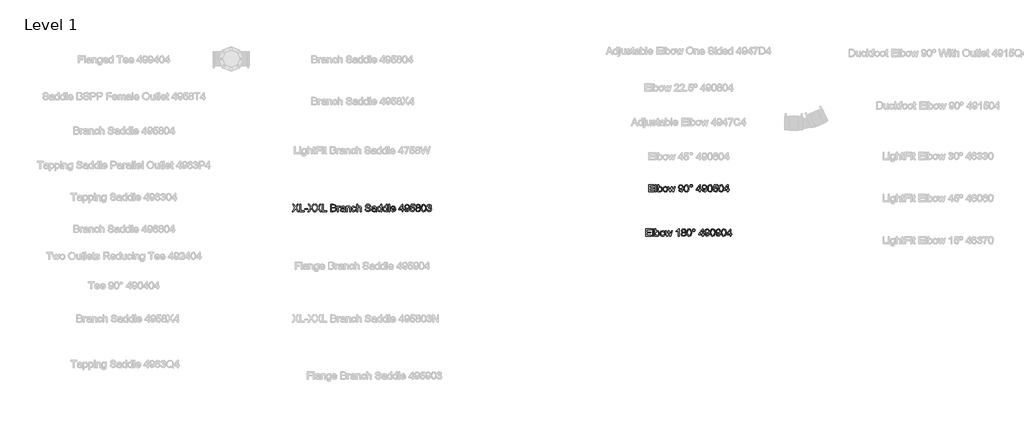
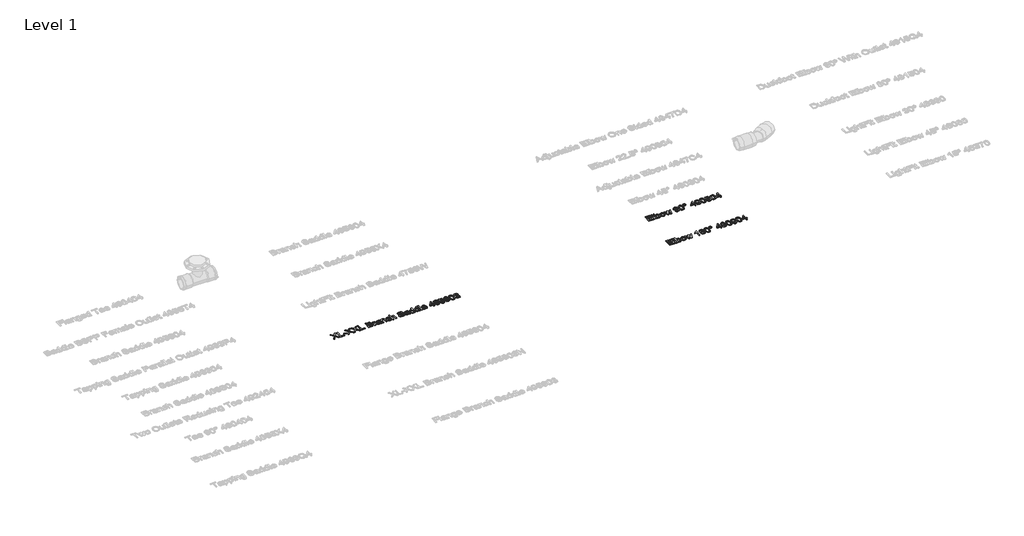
# One storey, part 11 of 38: 3 proxies.
"""IFC4 building model written with IfcOpenShell, lengths in millimetres."""

from ifc_helpers import new_model, si_unit, origin, origin_with_axes, place, context, project, spatial, polyline, outline, extrude, element, save

model = new_model("IFC4")

# Units and contexts
model_context = context("Model", 3, world=origin())
ifc_project = project(units=[si_unit("LENGTHUNIT", "METRE", prefix="MILLI")], contexts=[model_context])

# Site, building, storey
site = spatial("IfcSite", under=ifc_project)
building = spatial("IfcBuilding", under=site)
storey = spatial("IfcBuildingStorey", under=building, Name="Level 1", Elevation=0.0)

# Proxies
placement = place(None, origin())
element("IfcBuildingElementProxy", 1, Name="100 mm Arial", ObjectType="100 mm Arial", at=placement, inside=storey, context=model_context, shape_type="SweptSolid", body=[
    extrude(outline(polyline([(8429.5193072, 3727.5779735), (8452.2933456, 3759.7702812), (8433.2116149, 3786.6548966), (8442.0673841, 3786.6548966), (8452.8125764, 3771.5250889), (8456.4327687, 3765.6260505), (8460.6731533, 3771.6260505), (8471.302961, 3786.6548966), (8480.288538, 3786.6548966), (8461.2068072, 3759.6837428), (8483.9808456, 3727.5779735), (8475.1250764, 3727.5779735), (8459.9519995, 3748.9818197), (8456.7933456, 3753.4241274), (8453.3173841, 3748.5491274), (8438.5048841, 3727.5779735), (8429.5193072, 3727.5779735)])), origin_with_axes(), (0.0, 0.0, 1.0), 5.0),
    extrude(outline(polyline([(8491.365461, 3727.5779735), (8491.365461, 3786.6548966), (8498.7500764, 3786.6548966), (8498.7500764, 3734.9625889), (8528.288538, 3734.9625889), (8528.288538, 3727.5779735), (8491.365461, 3727.5779735)])), origin_with_axes(), (0.0, 0.0, 1.0), 5.0),
    extrude(outline(polyline([(8531.9808456, 3745.1164351), (8531.9808456, 3752.5010505), (8555.0577687, 3752.5010505), (8555.0577687, 3745.1164351), (8531.9808456, 3745.1164351)])), origin_with_axes(), (0.0, 0.0, 1.0), 5.0),
    extrude(outline(polyline([(8557.8269995, 3727.5779735), (8580.601038, 3759.7702812), (8561.5193072, 3786.6548966), (8570.3750764, 3786.6548966), (8581.1202687, 3771.5250889), (8584.740461, 3765.6260505), (8588.9808456, 3771.6260505), (8599.6106533, 3786.6548966), (8608.5962303, 3786.6548966), (8589.5144995, 3759.6837428), (8612.288538, 3727.5779735), (8603.4327687, 3727.5779735), (8588.2596918, 3748.9818197), (8585.101038, 3753.4241274), (8581.6250764, 3748.5491274), (8566.8125764, 3727.5779735), (8557.8269995, 3727.5779735)])), origin_with_axes(), (0.0, 0.0, 1.0), 5.0),
    extrude(outline(polyline([(8613.2116149, 3727.5779735), (8635.9856533, 3759.7702812), (8616.9039226, 3786.6548966), (8625.7596918, 3786.6548966), (8636.5048841, 3771.5250889), (8640.1250764, 3765.6260505), (8644.365461, 3771.6260505), (8654.9952687, 3786.6548966), (8663.9808456, 3786.6548966), (8644.8991149, 3759.6837428), (8667.6731533, 3727.5779735), (8658.8173841, 3727.5779735), (8643.6443072, 3748.9818197), (8640.4856533, 3753.4241274), (8637.0096918, 3748.5491274), (8622.1971918, 3727.5779735), (8613.2116149, 3727.5779735)])), origin_with_axes(), (0.0, 0.0, 1.0), 5.0),
    extrude(outline(polyline([(8675.0577687, 3727.5779735), (8675.0577687, 3786.6548966), (8682.4423841, 3786.6548966), (8682.4423841, 3734.9625889), (8711.9808456, 3734.9625889), (8711.9808456, 3727.5779735), (8675.0577687, 3727.5779735)])), origin_with_axes(), (0.0, 0.0, 1.0), 5.0),
    extrude(outline(polyline([(8743.365461, 3727.5779735), (8743.365461, 3786.6548966), (8765.9087303, 3786.6548966), (8776.9495956, 3784.9169158), (8783.4688264, 3779.5731658), (8785.8269995, 3772.0154735), (8783.8438264, 3765.1140312), (8777.851038, 3759.8856658), (8785.1274803, 3754.3760505), (8787.6731533, 3745.1885505), (8785.9351726, 3737.2486466), (8781.6298841, 3731.5948005), (8775.2044033, 3728.5948005), (8765.7356533, 3727.5779735), (8743.365461, 3727.5779735)]), holes=[polyline([(8750.7500764, 3762.6548966), (8764.2356533, 3762.6548966), (8772.1106533, 3763.289512), (8776.8486341, 3766.0226851), (8778.4423841, 3770.8327812), (8776.9568072, 3775.6500889), (8772.7019995, 3778.4986466), (8763.2116149, 3779.2702812), (8750.7500764, 3779.2702812), (8750.7500764, 3762.6548966)]), polyline([(8750.7500764, 3734.9625889), (8765.8943072, 3734.9625889), (8771.3750764, 3735.2510505), (8776.0120956, 3736.8592235), (8779.084211, 3740.1404735), (8780.288538, 3745.1164351), (8778.8750764, 3750.8568197), (8774.2957495, 3754.2823005), (8765.1731533, 3755.2702812), (8750.7500764, 3755.2702812), (8750.7500764, 3734.9625889)])]), origin_with_axes(), (0.0, 0.0, 1.0), 5.0),
    extrude(outline(polyline([(8796.9039226, 3727.5779735), (8796.9039226, 3770.9625889), (8803.365461, 3770.9625889), (8803.365461, 3764.5443197), (8807.9519995, 3770.4577812), (8812.5673841, 3771.8856658), (8819.9808456, 3769.6068197), (8817.5144995, 3762.9866274), (8812.3221918, 3764.5010505), (8808.146711, 3763.0443197), (8805.4856533, 3759.0058582), (8804.288538, 3750.3808582), (8804.288538, 3727.5779735), (8796.9039226, 3727.5779735)])), origin_with_axes(), (0.0, 0.0, 1.0), 5.0),
    extrude(outline(polyline([(8852.288538, 3733.1164351), (8845.1274803, 3728.1116274), (8837.2164226, 3726.6548966), (8826.4928649, 3730.1597043), (8822.7500764, 3739.1164351), (8824.163538, 3744.9577812), (8827.8774803, 3749.1981658), (8833.0481533, 3751.6212428), (8839.4375764, 3752.7318197), (8852.2452687, 3755.2702812), (8852.288538, 3756.914512), (8850.2548841, 3762.3664351), (8842.0914226, 3764.5010505), (8834.6202687, 3763.0803774), (8831.0577687, 3758.039512), (8823.6731533, 3758.9625889), (8826.8678649, 3766.1741274), (8833.3005572, 3770.4000889), (8843.0433456, 3771.8856658), (8851.9928649, 3770.5731658), (8857.0481533, 3767.2774928), (8859.3125764, 3762.2654735), (8859.6731533, 3755.8039351), (8859.6731533, 3746.6164351), (8860.0481533, 3733.7871082), (8861.5193072, 3727.5779735), (8854.1346918, 3727.5779735), (8852.288538, 3733.1164351)]), holes=[polyline([(8852.288538, 3747.8856658), (8840.3750764, 3745.6212428), (8834.021711, 3744.4241274), (8831.1443072, 3742.477012), (8830.1346918, 3739.6356658), (8832.334211, 3735.6404735), (8838.788538, 3734.039512), (8846.2596918, 3735.8063389), (8851.0769995, 3740.0827812), (8852.2452687, 3745.7943197), (8852.288538, 3747.8856658)])]), origin_with_axes(), (0.0, 0.0, 1.0), 5.0),
    extrude(outline(polyline([(8869.8269995, 3727.5779735), (8869.8269995, 3770.9625889), (8877.2116149, 3770.9625889), (8877.2116149, 3764.9048966), (8882.8582495, 3770.1404735), (8890.5673841, 3771.8856658), (8897.5409418, 3770.4794158), (8902.3005572, 3766.7871082), (8904.5144995, 3761.3568197), (8904.9039226, 3754.2173966), (8904.9039226, 3727.5779735), (8897.5193072, 3727.5779735), (8897.5193072, 3753.2222043), (8896.6683456, 3759.7558582), (8893.6611341, 3763.2101851), (8888.5914226, 3764.5010505), (8880.5794033, 3761.602012), (8877.2116149, 3750.5972043), (8877.2116149, 3727.5779735), (8869.8269995, 3727.5779735)])), origin_with_axes(), (0.0, 0.0, 1.0), 5.0),
    extrude(outline(polyline([(8942.7500764, 3743.2702812), (8950.1346918, 3742.3472043), (8944.2068072, 3730.8159543), (8932.4952687, 3726.6548966), (8924.6401005, 3728.1062187), (8918.4976726, 3732.4601851), (8914.5331293, 3739.5256899), (8913.2116149, 3749.1116274), (8915.4688264, 3761.3784543), (8922.3486341, 3769.2606658), (8932.3943072, 3771.8856658), (8943.6226726, 3768.2798966), (8949.2116149, 3758.039512), (8941.8269995, 3757.1164351), (8938.4015187, 3762.6476851), (8932.4519995, 3764.5010505), (8923.8919033, 3760.852012), (8920.5962303, 3749.3135505), (8923.819788, 3737.6669158), (8932.2500764, 3734.039512), (8939.209211, 3736.3039351), (8942.7500764, 3743.2702812)])), origin_with_axes(), (0.0, 0.0, 1.0), 5.0),
    extrude(outline(polyline([(8956.5962303, 3727.5779735), (8956.5962303, 3786.6548966), (8963.9808456, 3786.6548966), (8963.9808456, 3764.9337428), (8969.7392591, 3770.1476851), (8976.8318072, 3771.8856658), (8985.1250764, 3769.9890312), (8990.1587303, 3764.7462428), (8991.6731533, 3755.039512), (8991.6731533, 3727.5779735), (8984.288538, 3727.5779735), (8984.288538, 3754.2750889), (8981.9375764, 3762.0635505), (8975.2741149, 3764.5010505), (8969.2236341, 3762.8568197), (8965.1851726, 3758.4000889), (8963.9808456, 3750.6260505), (8963.9808456, 3727.5779735), (8956.5962303, 3727.5779735)])), origin_with_axes(), (0.0, 0.0, 1.0), 5.0),
    extrude(outline(polyline([(9023.0577687, 3747.8856658), (9030.4423841, 3747.8856658), (9032.8221918, 3740.4938389), (9038.6346918, 3735.820762), (9047.490461, 3734.039512), (9055.2068072, 3735.3880697), (9060.1899803, 3739.0948005), (9061.8269995, 3744.0491274), (9060.601038, 3748.6573005), (9055.5818072, 3752.0106658), (9044.8294033, 3754.8303774), (9033.2548841, 3758.4722043), (9026.9736341, 3763.9673966), (9024.9039226, 3771.3087428), (9027.4640187, 3779.6669158), (9034.9423841, 3785.5659543), (9045.8894995, 3787.5779735), (9057.5721918, 3785.4722043), (9065.3606533, 3779.2847043), (9068.288538, 3770.039512), (9060.9039226, 3770.039512), (9056.7212303, 3777.6260505), (9046.177961, 3780.1933582), (9035.6058456, 3777.6548966), (9032.288538, 3771.5250889), (9034.6394995, 3766.4048966), (9046.6971918, 3762.2798966), (9059.7644995, 3758.5731658), (9066.9111341, 3752.5875889), (9069.2116149, 3744.2366274), (9066.5649803, 3735.4024928), (9058.9495956, 3728.9553774), (9047.7789226, 3726.6548966), (9034.5890187, 3729.1356658), (9026.2452687, 3736.6068197), (9023.0577687, 3747.8856658)])), origin_with_axes(), (0.0, 0.0, 1.0), 5.0),
    extrude(outline(polyline([(9107.0577687, 3733.1164351), (9099.896711, 3728.1116274), (9091.9856533, 3726.6548966), (9081.2620956, 3730.1597043), (9077.5193072, 3739.1164351), (9078.9327687, 3744.9577812), (9082.646711, 3749.1981658), (9087.8173841, 3751.6212428), (9094.2068072, 3752.7318197), (9107.0144995, 3755.2702812), (9107.0577687, 3756.914512), (9105.0241149, 3762.3664351), (9096.8606533, 3764.5010505), (9089.3894995, 3763.0803774), (9085.8269995, 3758.039512), (9078.4423841, 3758.9625889), (9081.6370956, 3766.1741274), (9088.069788, 3770.4000889), (9097.8125764, 3771.8856658), (9106.7620956, 3770.5731658), (9111.8173841, 3767.2774928), (9114.0818072, 3762.2654735), (9114.4423841, 3755.8039351), (9114.4423841, 3746.6164351), (9114.8173841, 3733.7871082), (9116.288538, 3727.5779735), (9108.9039226, 3727.5779735), (9107.0577687, 3733.1164351)]), holes=[polyline([(9107.0577687, 3747.8856658), (9095.1443072, 3745.6212428), (9088.7909418, 3744.4241274), (9085.913538, 3742.477012), (9084.9039226, 3739.6356658), (9087.1034418, 3735.6404735), (9093.5577687, 3734.039512), (9101.0289226, 3735.8063389), (9105.8462303, 3740.0827812), (9107.0144995, 3745.7943197), (9107.0577687, 3747.8856658)])]), origin_with_axes(), (0.0, 0.0, 1.0), 5.0),
    extrude(outline(polyline([(9151.365461, 3727.5779735), (9151.365461, 3734.5443197), (9146.4796437, 3728.6272524), (9139.726038, 3726.6548966), (9130.5818072, 3729.5106658), (9124.1202687, 3737.4794158), (9121.8269995, 3749.227012), (9123.9399803, 3760.9818197), (9130.271711, 3769.0731658), (9139.6971918, 3771.8856658), (9146.5048841, 3769.8736466), (9151.365461, 3764.6452812), (9151.365461, 3786.6548966), (9158.7500764, 3786.6548966), (9158.7500764, 3727.5779735), (9151.365461, 3727.5779735)]), holes=[polyline([(9129.2116149, 3749.2558582), (9132.5433456, 3737.8255697), (9140.4039226, 3734.039512), (9148.1707495, 3737.6524928), (9151.365461, 3748.6933582), (9148.1130572, 3760.6789351), (9140.101038, 3764.5010505), (9132.3269995, 3760.8303774), (9129.2116149, 3749.2558582)])]), origin_with_axes(), (0.0, 0.0, 1.0), 5.0),
    extrude(outline(polyline([(9196.5962303, 3727.5779735), (9196.5962303, 3734.5443197), (9191.710413, 3728.6272524), (9184.9568072, 3726.6548966), (9175.8125764, 3729.5106658), (9169.351038, 3737.4794158), (9167.0577687, 3749.227012), (9169.1707495, 3760.9818197), (9175.5024803, 3769.0731658), (9184.927961, 3771.8856658), (9191.7356533, 3769.8736466), (9196.5962303, 3764.6452812), (9196.5962303, 3786.6548966), (9203.9808456, 3786.6548966), (9203.9808456, 3727.5779735), (9196.5962303, 3727.5779735)]), holes=[polyline([(9174.4423841, 3749.2558582), (9177.7741149, 3737.8255697), (9185.6346918, 3734.039512), (9193.4015187, 3737.6524928), (9196.5962303, 3748.6933582), (9193.3438264, 3760.6789351), (9185.3318072, 3764.5010505), (9177.5577687, 3760.8303774), (9174.4423841, 3749.2558582)])]), origin_with_axes(), (0.0, 0.0, 1.0), 5.0),
    extrude(outline(polyline([(9215.0577687, 3727.5779735), (9215.0577687, 3786.6548966), (9222.4423841, 3786.6548966), (9222.4423841, 3727.5779735), (9215.0577687, 3727.5779735)])), origin_with_axes(), (0.0, 0.0, 1.0), 5.0),
    extrude(outline(polyline([(9263.8943072, 3740.5010505), (9271.1346918, 3739.5779735), (9264.3630572, 3730.0443197), (9251.7500764, 3726.6548966), (9243.085413, 3728.117036), (9236.4183456, 3732.5034543), (9232.1671437, 3739.5292957), (9230.7500764, 3748.9097043), (9232.1815668, 3758.6056178), (9236.476038, 3765.8568197), (9243.052961, 3770.3784543), (9251.3318072, 3771.8856658), (9259.3528408, 3770.3820601), (9265.7620956, 3765.8712428), (9269.9646197, 3758.6344639), (9271.365461, 3748.9529735), (9271.3221918, 3746.9625889), (9238.1346918, 3746.9625889), (9242.382288, 3737.3712428), (9251.8943072, 3734.039512), (9259.1346918, 3735.5827812), (9263.8943072, 3740.5010505)]), holes=[polyline([(9238.1346918, 3754.3472043), (9263.9808456, 3754.3472043), (9261.0241149, 3761.039512), (9251.302961, 3764.5010505), (9242.209211, 3761.7390312), (9238.1346918, 3754.3472043)])]), origin_with_axes(), (0.0, 0.0, 1.0), 5.0),
    extrude(outline(polyline([(9323.9808456, 3727.5779735), (9323.9808456, 3741.4241274), (9297.2116149, 3741.4241274), (9297.2116149, 3748.8087428), (9325.8269995, 3785.7318197), (9331.365461, 3785.7318197), (9331.365461, 3748.8087428), (9338.7500764, 3748.8087428), (9338.7500764, 3741.4241274), (9331.365461, 3741.4241274), (9331.365461, 3727.5779735), (9323.9808456, 3727.5779735)]), holes=[polyline([(9323.9808456, 3748.8087428), (9323.9808456, 3771.6260505), (9306.2981533, 3748.8087428), (9323.9808456, 3748.8087428)])]), origin_with_axes(), (0.0, 0.0, 1.0), 5.0),
    extrude(outline(polyline([(9346.1346918, 3742.3472043), (9353.5193072, 3743.2702812), (9356.8366149, 3736.2246082), (9363.1250764, 3734.039512), (9369.1034418, 3735.445762), (9373.1563264, 3739.2029735), (9375.5721918, 3745.6212428), (9376.6394995, 3754.1885505), (9370.6899803, 3750.0347043), (9362.5914226, 3747.8856658), (9350.2524803, 3753.1356658), (9345.2116149, 3766.9673966), (9350.4976726, 3781.2462428), (9363.7452687, 3786.6548966), (9374.2669033, 3783.5683582), (9381.507288, 3774.7702812), (9383.9808456, 3758.2414351), (9381.5144995, 3740.3063389), (9374.1803649, 3730.1452812), (9362.7789226, 3726.6548966), (9351.427961, 3730.7726851), (9346.1346918, 3742.3472043)]), holes=[polyline([(9376.5962303, 3767.1404735), (9373.4087303, 3775.9962428), (9364.9423841, 3779.2702812), (9356.0577687, 3775.7438389), (9352.5962303, 3766.6068197), (9355.8702687, 3758.4217235), (9364.740461, 3755.2702812), (9373.257288, 3758.4217235), (9376.5962303, 3767.1404735)])]), origin_with_axes(), (0.0, 0.0, 1.0), 5.0),
    extrude(outline(polyline([(9390.4423841, 3743.2702812), (9397.8269995, 3744.1933582), (9401.5481533, 3736.5851851), (9409.2644995, 3734.039512), (9418.5241149, 3737.5803774), (9421.8269995, 3746.977012), (9418.7332495, 3755.7462428), (9409.3798841, 3758.9625889), (9402.896711, 3757.6789351), (9398.7500764, 3754.3472043), (9391.365461, 3755.2702812), (9397.8269995, 3785.7318197), (9426.4423841, 3785.7318197), (9426.4423841, 3778.3472043), (9403.7981533, 3778.3472043), (9400.6394995, 3762.0779735), (9411.4423841, 3766.3472043), (9424.069788, 3761.0539351), (9429.2116149, 3747.4385505), (9424.5818072, 3733.7366274), (9417.9327687, 3728.4253293), (9409.2356533, 3726.6548966), (9396.2044033, 3731.2053774), (9390.4423841, 3743.2702812)])), origin_with_axes(), (0.0, 0.0, 1.0), 5.0),
    extrude(outline(polyline([(9446.4327687, 3760.1164351), (9439.7044033, 3764.7029735), (9437.5193072, 3771.8423966), (9442.2789226, 3782.3856658), (9454.9568072, 3786.6548966), (9467.7500764, 3782.2847043), (9472.5962303, 3771.6404735), (9470.4399803, 3764.6813389), (9463.8991149, 3760.1164351), (9471.7524803, 3754.3255697), (9474.4423841, 3744.7702812), (9469.1058456, 3731.8760505), (9455.0577687, 3726.6548966), (9441.0096918, 3731.8976851), (9435.6731533, 3744.9722043), (9438.4712303, 3754.7510505), (9446.4327687, 3760.1164351)]), holes=[polyline([(9444.9039226, 3771.6260505), (9447.521711, 3765.8279735), (9455.1443072, 3763.5779735), (9462.615461, 3765.8135505), (9465.2116149, 3771.2943197), (9462.5289226, 3776.9698005), (9455.0577687, 3779.2702812), (9447.5649803, 3777.0202812), (9444.9039226, 3771.6260505)]), polyline([(9443.0577687, 3745.2318197), (9444.2909418, 3739.6717235), (9448.6539226, 3735.5106658), (9455.115461, 3734.039512), (9463.913538, 3737.133262), (9467.0577687, 3745.0010505), (9463.8125764, 3753.0202812), (9454.8702687, 3756.1933582), (9446.1803649, 3753.0635505), (9443.0577687, 3745.2318197)])]), origin_with_axes(), (0.0, 0.0, 1.0), 5.0),
    extrude(outline(polyline([(9480.9039226, 3756.6404735), (9483.0745956, 3773.6380697), (9489.521711, 3783.4385505), (9500.288538, 3786.6548966), (9508.913538, 3784.7510505), (9514.8702687, 3779.2630697), (9518.3318072, 3770.5226851), (9519.6731533, 3756.6404735), (9517.5241149, 3739.7149928), (9511.0986341, 3729.8928774), (9500.288538, 3726.6548966), (9492.615461, 3728.0611466), (9486.788538, 3732.2798966), (9482.3750764, 3742.2714832), (9480.9039226, 3756.6404735)]), holes=[polyline([(9488.288538, 3756.6548966), (9491.7500764, 3738.3159543), (9500.288538, 3734.039512), (9508.8269995, 3738.3303774), (9512.288538, 3756.6548966), (9508.9423841, 3774.7847043), (9500.2019995, 3779.2702812), (9491.865461, 3775.3183582), (9488.288538, 3756.6548966)])]), origin_with_axes(), (0.0, 0.0, 1.0), 5.0),
    extrude(outline(polyline([(9526.1346918, 3743.2702812), (9533.5193072, 3744.1933582), (9537.5938264, 3736.4193197), (9545.2164226, 3734.039512), (9554.1875764, 3737.3135505), (9557.5193072, 3745.4193197), (9554.2164226, 3753.0563389), (9545.8221918, 3756.0779735), (9540.6443072, 3755.2702812), (9541.4664226, 3762.6548966), (9551.0289226, 3764.6885505), (9554.7500764, 3771.2077812), (9552.052961, 3776.9842235), (9545.101038, 3779.2702812), (9538.0625764, 3776.9625889), (9534.4423841, 3770.039512), (9527.0577687, 3770.9625889), (9533.101038, 3782.5443197), (9544.8414226, 3786.6548966), (9553.7476726, 3784.6284543), (9559.9784418, 3779.0899928), (9562.1346918, 3771.6404735), (9560.0866149, 3764.8327812), (9554.0289226, 3759.9433582), (9562.0769995, 3754.8952812), (9564.9039226, 3745.289512), (9559.2500764, 3732.0779735), (9544.9568072, 3726.6548966), (9532.0048841, 3731.2847043), (9526.1346918, 3743.2702812)])), origin_with_axes(), (0.0, 0.0, 1.0), 5.0),
])
element("IfcBuildingElementProxy", 2, Name="100 mm Arial", ObjectType="100 mm Arial", at=placement, inside=storey, context=model_context, shape_type="SweptSolid", body=[
    extrude(outline(polyline([(11332.9104891, 3888.1156584), (11332.9104891, 3947.1925814), (11375.3720276, 3947.1925814), (11375.3720276, 3939.8079661), (11340.2951045, 3939.8079661), (11340.2951045, 3922.2695045), (11373.5258737, 3922.2695045), (11373.5258737, 3914.8848891), (11340.2951045, 3914.8848891), (11340.2951045, 3895.5002738), (11376.2951045, 3895.5002738), (11376.2951045, 3888.1156584), (11332.9104891, 3888.1156584)])), origin_with_axes(), (0.0, 0.0, 1.0), 5.0),
    extrude(outline(polyline([(11386.4489506, 3888.1156584), (11386.4489506, 3947.1925814), (11393.833566, 3947.1925814), (11393.833566, 3888.1156584), (11386.4489506, 3888.1156584)])), origin_with_axes(), (0.0, 0.0, 1.0), 5.0),
    extrude(outline(polyline([(11412.2951045, 3888.1156584), (11404.9104891, 3888.1156584), (11404.9104891, 3947.1925814), (11412.2951045, 3947.1925814), (11412.2951045, 3925.2839276), (11417.4657776, 3930.6384949), (11423.8912583, 3932.4233507), (11431.2902968, 3930.8151776), (11437.0306814, 3926.293543), (11440.5571237, 3919.262293), (11441.833566, 3910.4570045), (11440.5120516, 3900.5988314), (11436.5475083, 3893.2646968), (11430.7295997, 3888.7106103), (11423.8479891, 3887.1925814), (11417.2818833, 3889.1505141), (11412.2951045, 3895.0243122), (11412.2951045, 3888.1156584)]), holes=[polyline([(11412.2951045, 3910.1108507), (11414.3143353, 3899.7839276), (11423.2133737, 3894.5771968), (11431.1172199, 3898.4137353), (11434.4489506, 3909.8512353), (11431.2542391, 3921.3320045), (11423.5306814, 3925.0387353), (11415.6268353, 3921.2021968), (11412.2951045, 3910.1108507)])]), origin_with_axes(), (0.0, 0.0, 1.0), 5.0),
    extrude(outline(polyline([(11448.2951045, 3909.8079661), (11449.8924603, 3920.2683026), (11454.6845276, 3927.6204661), (11467.694143, 3932.4233507), (11475.4519555, 3930.9612113), (11481.6484699, 3926.574793), (11485.7103689, 3919.6102497), (11487.0643353, 3910.4137353), (11484.6701045, 3897.2743122), (11477.6965468, 3889.8392161), (11467.694143, 3887.1925814), (11459.8425805, 3888.6493122), (11453.6532776, 3893.0195045), (11449.6346478, 3900.1300814), (11448.2951045, 3909.8079661)]), holes=[polyline([(11455.6797199, 3909.8223891), (11459.0979891, 3898.3776776), (11467.694143, 3894.5771968), (11476.2614506, 3898.3993122), (11479.6797199, 3910.0531584), (11476.239816, 3921.2382545), (11467.694143, 3925.0387353), (11459.0979891, 3921.2526776), (11455.6797199, 3909.8223891)])]), origin_with_axes(), (0.0, 0.0, 1.0), 5.0),
    extrude(outline(polyline([(11502.569143, 3888.1156584), (11489.3720276, 3931.5002738), (11497.0451045, 3931.5002738), (11504.5306814, 3906.1877738), (11506.7662583, 3897.1445045), (11508.5979891, 3905.856043), (11514.5547199, 3931.5002738), (11523.3527968, 3931.5002738), (11529.2806814, 3905.9281584), (11530.9104891, 3898.0387353), (11533.2470276, 3906.3608507), (11540.7470276, 3931.5002738), (11548.4489506, 3931.5002738), (11535.1508737, 3888.1156584), (11526.2229891, 3888.1156584), (11520.5547199, 3913.5579661), (11518.9104891, 3921.4906584), (11511.5979891, 3888.1156584), (11502.569143, 3888.1156584)])), origin_with_axes(), (0.0, 0.0, 1.0), 5.0),
    extrude(outline(polyline([(11575.6797199, 3902.8848891), (11583.0643353, 3903.8079661), (11586.381643, 3896.762293), (11592.6701045, 3894.5771968), (11598.6484699, 3895.9834468), (11602.7013545, 3899.7406584), (11605.1172199, 3906.1589276), (11606.1845276, 3914.7262353), (11600.2350083, 3910.5723891), (11592.1364506, 3908.4233507), (11579.7975083, 3913.6733507), (11574.756643, 3927.5050814), (11580.0427006, 3941.7839276), (11593.2902968, 3947.1925814), (11603.8119314, 3944.106043), (11611.052316, 3935.3079661), (11613.5258737, 3918.7791199), (11611.0595276, 3900.8440238), (11603.725393, 3890.6829661), (11592.3239506, 3887.1925814), (11580.9729891, 3891.3103699), (11575.6797199, 3902.8848891)]), holes=[polyline([(11606.1412583, 3927.6781584), (11602.9537583, 3936.5339276), (11594.4874122, 3939.8079661), (11585.6027968, 3936.2815238), (11582.1412583, 3927.1445045), (11585.4152968, 3918.9594084), (11594.2854891, 3915.8079661), (11602.802316, 3918.9594084), (11606.1412583, 3927.6781584)])]), origin_with_axes(), (0.0, 0.0, 1.0), 5.0),
    extrude(outline(polyline([(11619.9874122, 3917.1781584), (11622.1580853, 3934.1757545), (11628.6052006, 3943.9762353), (11639.3720276, 3947.1925814), (11647.9970276, 3945.2887353), (11653.9537583, 3939.8007545), (11657.4152968, 3931.0603699), (11658.756643, 3917.1781584), (11656.6076045, 3900.2526776), (11650.1821237, 3890.4305622), (11639.3720276, 3887.1925814), (11631.6989506, 3888.5988314), (11625.8720276, 3892.8175814), (11621.458566, 3902.809168), (11619.9874122, 3917.1781584)]), holes=[polyline([(11627.3720276, 3917.1925814), (11630.833566, 3898.8536391), (11639.3720276, 3894.5771968), (11647.9104891, 3898.8680622), (11651.3720276, 3917.1925814), (11648.0258737, 3935.3223891), (11639.2854891, 3939.8079661), (11630.9489506, 3935.856043), (11627.3720276, 3917.1925814)])]), origin_with_axes(), (0.0, 0.0, 1.0), 5.0),
    extrude(outline(polyline([(11667.0643353, 3937.0531584), (11670.3167391, 3944.8848891), (11678.1268353, 3948.1156584), (11685.9874122, 3944.8848891), (11689.2181814, 3937.0531584), (11685.9657776, 3929.2142161), (11678.1268353, 3925.9618122), (11670.3167391, 3929.1925814), (11667.0643353, 3937.0531584)]), holes=[polyline([(11671.6797199, 3937.0387353), (11673.5763545, 3932.4666199), (11678.1556814, 3930.5771968), (11682.7061622, 3932.4666199), (11684.6027968, 3937.0387353), (11682.7061622, 3941.6108507), (11678.1556814, 3943.5002738), (11673.5763545, 3941.6108507), (11671.6797199, 3937.0387353)])]), origin_with_axes(), (0.0, 0.0, 1.0), 5.0),
    extrude(outline(polyline([(11745.5258737, 3888.1156584), (11745.5258737, 3901.9618122), (11718.756643, 3901.9618122), (11718.756643, 3909.3464276), (11747.3720276, 3946.2695045), (11752.9104891, 3946.2695045), (11752.9104891, 3909.3464276), (11760.2951045, 3909.3464276), (11760.2951045, 3901.9618122), (11752.9104891, 3901.9618122), (11752.9104891, 3888.1156584), (11745.5258737, 3888.1156584)]), holes=[polyline([(11745.5258737, 3909.3464276), (11745.5258737, 3932.1637353), (11727.8431814, 3909.3464276), (11745.5258737, 3909.3464276)])]), origin_with_axes(), (0.0, 0.0, 1.0), 5.0),
    extrude(outline(polyline([(11767.6797199, 3902.8848891), (11775.0643353, 3903.8079661), (11778.381643, 3896.762293), (11784.6701045, 3894.5771968), (11790.6484699, 3895.9834468), (11794.7013545, 3899.7406584), (11797.1172199, 3906.1589276), (11798.1845276, 3914.7262353), (11792.2350083, 3910.5723891), (11784.1364506, 3908.4233507), (11771.7975083, 3913.6733507), (11766.756643, 3927.5050814), (11772.0427006, 3941.7839276), (11785.2902968, 3947.1925814), (11795.8119314, 3944.106043), (11803.052316, 3935.3079661), (11805.5258737, 3918.7791199), (11803.0595276, 3900.8440238), (11795.725393, 3890.6829661), (11784.3239506, 3887.1925814), (11772.9729891, 3891.3103699), (11767.6797199, 3902.8848891)]), holes=[polyline([(11798.1412583, 3927.6781584), (11794.9537583, 3936.5339276), (11786.4874122, 3939.8079661), (11777.6027968, 3936.2815238), (11774.1412583, 3927.1445045), (11777.4152968, 3918.9594084), (11786.2854891, 3915.8079661), (11794.802316, 3918.9594084), (11798.1412583, 3927.6781584)])]), origin_with_axes(), (0.0, 0.0, 1.0), 5.0),
    extrude(outline(polyline([(11811.9874122, 3917.1781584), (11814.1580853, 3934.1757545), (11820.6052006, 3943.9762353), (11831.3720276, 3947.1925814), (11839.9970276, 3945.2887353), (11845.9537583, 3939.8007545), (11849.4152968, 3931.0603699), (11850.756643, 3917.1781584), (11848.6076045, 3900.2526776), (11842.1821237, 3890.4305622), (11831.3720276, 3887.1925814), (11823.6989506, 3888.5988314), (11817.8720276, 3892.8175814), (11813.458566, 3902.809168), (11811.9874122, 3917.1781584)]), holes=[polyline([(11819.3720276, 3917.1925814), (11822.833566, 3898.8536391), (11831.3720276, 3894.5771968), (11839.9104891, 3898.8680622), (11843.3720276, 3917.1925814), (11840.0258737, 3935.3223891), (11831.2854891, 3939.8079661), (11822.9489506, 3935.856043), (11819.3720276, 3917.1925814)])]), origin_with_axes(), (0.0, 0.0, 1.0), 5.0),
    extrude(outline(polyline([(11857.2181814, 3903.8079661), (11864.6027968, 3904.731043), (11868.3239506, 3897.1228699), (11876.0402968, 3894.5771968), (11885.2999122, 3898.1180622), (11888.6027968, 3907.5146968), (11885.5090468, 3916.2839276), (11876.1556814, 3919.5002738), (11869.6725083, 3918.2166199), (11865.5258737, 3914.8848891), (11858.1412583, 3915.8079661), (11864.6027968, 3946.2695045), (11893.2181814, 3946.2695045), (11893.2181814, 3938.8848891), (11870.5739506, 3938.8848891), (11867.4152968, 3922.6156584), (11878.2181814, 3926.8848891), (11890.8455853, 3921.5916199), (11895.9874122, 3907.9762353), (11891.3576045, 3894.2743122), (11884.708566, 3888.9630141), (11876.0114506, 3887.1925814), (11862.9802006, 3891.7430622), (11857.2181814, 3903.8079661)])), origin_with_axes(), (0.0, 0.0, 1.0), 5.0),
    extrude(outline(polyline([(11902.4489506, 3917.1781584), (11904.6196237, 3934.1757545), (11911.0667391, 3943.9762353), (11921.833566, 3947.1925814), (11930.458566, 3945.2887353), (11936.4152968, 3939.8007545), (11939.8768353, 3931.0603699), (11941.2181814, 3917.1781584), (11939.069143, 3900.2526776), (11932.6436622, 3890.4305622), (11921.833566, 3887.1925814), (11914.1604891, 3888.5988314), (11908.333566, 3892.8175814), (11903.9201045, 3902.809168), (11902.4489506, 3917.1781584)]), holes=[polyline([(11909.833566, 3917.1925814), (11913.2951045, 3898.8536391), (11921.833566, 3894.5771968), (11930.3720276, 3898.8680622), (11933.833566, 3917.1925814), (11930.4874122, 3935.3223891), (11921.7470276, 3939.8079661), (11913.4104891, 3935.856043), (11909.833566, 3917.1925814)])]), origin_with_axes(), (0.0, 0.0, 1.0), 5.0),
    extrude(outline(polyline([(11971.6797199, 3888.1156584), (11971.6797199, 3901.9618122), (11944.9104891, 3901.9618122), (11944.9104891, 3909.3464276), (11973.5258737, 3946.2695045), (11979.0643353, 3946.2695045), (11979.0643353, 3909.3464276), (11986.4489506, 3909.3464276), (11986.4489506, 3901.9618122), (11979.0643353, 3901.9618122), (11979.0643353, 3888.1156584), (11971.6797199, 3888.1156584)]), holes=[polyline([(11971.6797199, 3909.3464276), (11971.6797199, 3932.1637353), (11953.9970276, 3909.3464276), (11971.6797199, 3909.3464276)])]), origin_with_axes(), (0.0, 0.0, 1.0), 5.0),
])
element("IfcBuildingElementProxy", 3, Name="100 mm Arial", ObjectType="100 mm Arial", at=placement, inside=storey, context=model_context, shape_type="SweptSolid", body=[
    extrude(outline(polyline([(11310.2951045, 3527.1209804), (11310.2951045, 3586.1979035), (11352.756643, 3586.1979035), (11352.756643, 3578.8132881), (11317.6797199, 3578.8132881), (11317.6797199, 3561.2748266), (11350.9104891, 3561.2748266), (11350.9104891, 3553.8902112), (11317.6797199, 3553.8902112), (11317.6797199, 3534.5055958), (11353.6797199, 3534.5055958), (11353.6797199, 3527.1209804), (11310.2951045, 3527.1209804)])), origin_with_axes(), (0.0, 0.0, 1.0), 5.0),
    extrude(outline(polyline([(11363.833566, 3527.1209804), (11363.833566, 3586.1979035), (11371.2181814, 3586.1979035), (11371.2181814, 3527.1209804), (11363.833566, 3527.1209804)])), origin_with_axes(), (0.0, 0.0, 1.0), 5.0),
    extrude(outline(polyline([(11389.6797199, 3527.1209804), (11382.2951045, 3527.1209804), (11382.2951045, 3586.1979035), (11389.6797199, 3586.1979035), (11389.6797199, 3564.2892496), (11394.850393, 3569.6438169), (11401.2758737, 3571.4286727), (11408.6749122, 3569.8204996), (11414.4152968, 3565.298865), (11417.9417391, 3558.267615), (11419.2181814, 3549.4623266), (11417.896667, 3539.6041535), (11413.9321237, 3532.2700189), (11408.1142151, 3527.7159323), (11401.2326045, 3526.1979035), (11394.6664987, 3528.1558362), (11389.6797199, 3534.0296343), (11389.6797199, 3527.1209804)]), holes=[polyline([(11389.6797199, 3549.1161727), (11391.6989506, 3538.7892496), (11400.5979891, 3533.5825189), (11408.5018353, 3537.4190573), (11411.833566, 3548.8565573), (11408.6388545, 3560.3373266), (11400.9152968, 3564.0440573), (11393.0114506, 3560.2075189), (11389.6797199, 3549.1161727)])]), origin_with_axes(), (0.0, 0.0, 1.0), 5.0),
    extrude(outline(polyline([(11425.6797199, 3548.8132881), (11427.2770756, 3559.2736246), (11432.069143, 3566.6257881), (11445.0787583, 3571.4286727), (11452.8365708, 3569.9665333), (11459.0330853, 3565.580115), (11463.0949843, 3558.6155718), (11464.4489506, 3549.4190573), (11462.0547199, 3536.2796343), (11455.0811622, 3528.8445381), (11445.0787583, 3526.1979035), (11437.2271958, 3527.6546343), (11431.037893, 3532.0248266), (11427.0192631, 3539.1354035), (11425.6797199, 3548.8132881)]), holes=[polyline([(11433.0643353, 3548.8277112), (11436.4826045, 3537.3829996), (11445.0787583, 3533.5825189), (11453.646066, 3537.4046343), (11457.0643353, 3549.0584804), (11453.6244314, 3560.2435766), (11445.0787583, 3564.0440573), (11436.4826045, 3560.2579996), (11433.0643353, 3548.8277112)])]), origin_with_axes(), (0.0, 0.0, 1.0), 5.0),
    extrude(outline(polyline([(11479.9537583, 3527.1209804), (11466.756643, 3570.5055958), (11474.4297199, 3570.5055958), (11481.9152968, 3545.1930958), (11484.1508737, 3536.1498266), (11485.9826045, 3544.861365), (11491.9393353, 3570.5055958), (11500.7374122, 3570.5055958), (11506.6652968, 3544.9334804), (11508.2951045, 3537.0440573), (11510.631643, 3545.3661727), (11518.131643, 3570.5055958), (11525.833566, 3570.5055958), (11512.5354891, 3527.1209804), (11503.6076045, 3527.1209804), (11497.9393353, 3552.5632881), (11496.2951045, 3560.4959804), (11488.9826045, 3527.1209804), (11479.9537583, 3527.1209804)])), origin_with_axes(), (0.0, 0.0, 1.0), 5.0),
    extrude(outline(polyline([(11579.833566, 3527.1209804), (11572.4489506, 3527.1209804), (11572.4489506, 3573.1594419), (11565.4537583, 3568.1762689), (11557.6797199, 3564.4479035), (11557.6797199, 3571.4286727), (11568.5042391, 3578.3373266), (11575.0739506, 3586.1979035), (11579.833566, 3586.1979035), (11579.833566, 3527.1209804)])), origin_with_axes(), (0.0, 0.0, 1.0), 5.0),
    extrude(outline(polyline([(11608.131643, 3559.6594419), (11601.4032776, 3564.2459804), (11599.2181814, 3571.3854035), (11603.9777968, 3581.9286727), (11616.6556814, 3586.1979035), (11629.4489506, 3581.8277112), (11634.2951045, 3571.1834804), (11632.1388545, 3564.2243458), (11625.5979891, 3559.6594419), (11633.4513545, 3553.8685766), (11636.1412583, 3544.3132881), (11630.8047199, 3531.4190573), (11616.756643, 3526.1979035), (11602.708566, 3531.4406919), (11597.3720276, 3544.5152112), (11600.1701045, 3554.2940573), (11608.131643, 3559.6594419)]), holes=[polyline([(11604.756643, 3544.7748266), (11605.989816, 3539.2147304), (11610.3527968, 3535.0536727), (11616.8143353, 3533.5825189), (11625.6124122, 3536.6762689), (11628.756643, 3544.5440573), (11625.5114506, 3552.5632881), (11616.569143, 3555.736365), (11607.8792391, 3552.6065573), (11604.756643, 3544.7748266)]), polyline([(11606.6027968, 3571.1690573), (11609.2205853, 3565.3709804), (11616.8431814, 3563.1209804), (11624.3143353, 3565.3565573), (11626.9104891, 3570.8373266), (11624.2277968, 3576.5128073), (11616.756643, 3578.8132881), (11609.2638545, 3576.5632881), (11606.6027968, 3571.1690573)])]), origin_with_axes(), (0.0, 0.0, 1.0), 5.0),
    extrude(outline(polyline([(11642.6027968, 3556.1834804), (11644.7734699, 3573.1810766), (11651.2205853, 3582.9815573), (11661.9874122, 3586.1979035), (11670.6124122, 3584.2940573), (11676.569143, 3578.8060766), (11680.0306814, 3570.0656919), (11681.3720276, 3556.1834804), (11679.2229891, 3539.2579996), (11672.7975083, 3529.4358843), (11661.9874122, 3526.1979035), (11654.3143353, 3527.6041535), (11648.4874122, 3531.8229035), (11644.0739506, 3541.81449), (11642.6027968, 3556.1834804)]), holes=[polyline([(11649.9874122, 3556.1979035), (11653.4489506, 3537.8589612), (11661.9874122, 3533.5825189), (11670.5258737, 3537.8733843), (11673.9874122, 3556.1979035), (11670.6412583, 3574.3277112), (11661.9008737, 3578.8132881), (11653.5643353, 3574.861365), (11649.9874122, 3556.1979035)])]), origin_with_axes(), (0.0, 0.0, 1.0), 5.0),
    extrude(outline(polyline([(11689.6797199, 3576.0584804), (11692.9321237, 3583.8902112), (11700.7422199, 3587.1209804), (11708.6027968, 3583.8902112), (11711.833566, 3576.0584804), (11708.5811622, 3568.2195381), (11700.7422199, 3564.9671343), (11692.9321237, 3568.1979035), (11689.6797199, 3576.0584804)]), holes=[polyline([(11694.2951045, 3576.0440573), (11696.1917391, 3571.4719419), (11700.771066, 3569.5825189), (11705.3215468, 3571.4719419), (11707.2181814, 3576.0440573), (11705.3215468, 3580.6161727), (11700.771066, 3582.5055958), (11696.1917391, 3580.6161727), (11694.2951045, 3576.0440573)])]), origin_with_axes(), (0.0, 0.0, 1.0), 5.0),
    extrude(outline(polyline([(11768.1412583, 3527.1209804), (11768.1412583, 3540.9671343), (11741.3720276, 3540.9671343), (11741.3720276, 3548.3517496), (11769.9874122, 3585.2748266), (11775.5258737, 3585.2748266), (11775.5258737, 3548.3517496), (11782.9104891, 3548.3517496), (11782.9104891, 3540.9671343), (11775.5258737, 3540.9671343), (11775.5258737, 3527.1209804), (11768.1412583, 3527.1209804)]), holes=[polyline([(11768.1412583, 3548.3517496), (11768.1412583, 3571.1690573), (11750.458566, 3548.3517496), (11768.1412583, 3548.3517496)])]), origin_with_axes(), (0.0, 0.0, 1.0), 5.0),
    extrude(outline(polyline([(11790.2951045, 3541.8902112), (11797.6797199, 3542.8132881), (11800.9970276, 3535.767615), (11807.2854891, 3533.5825189), (11813.2638545, 3534.9887689), (11817.3167391, 3538.7459804), (11819.7326045, 3545.1642496), (11820.7999122, 3553.7315573), (11814.850393, 3549.5777112), (11806.7518353, 3547.4286727), (11794.412893, 3552.6786727), (11789.3720276, 3566.5104035), (11794.6580853, 3580.7892496), (11807.9056814, 3586.1979035), (11818.427316, 3583.111365), (11825.6677006, 3574.3132881), (11828.1412583, 3557.7844419), (11825.6749122, 3539.8493458), (11818.3407776, 3529.6882881), (11806.9393353, 3526.1979035), (11795.5883737, 3530.3156919), (11790.2951045, 3541.8902112)]), holes=[polyline([(11820.756643, 3566.6834804), (11817.569143, 3575.5392496), (11809.1027968, 3578.8132881), (11800.2181814, 3575.2868458), (11796.756643, 3566.1498266), (11800.0306814, 3557.9647304), (11808.9008737, 3554.8132881), (11817.4177006, 3557.9647304), (11820.756643, 3566.6834804)])]), origin_with_axes(), (0.0, 0.0, 1.0), 5.0),
    extrude(outline(polyline([(11834.6027968, 3556.1834804), (11836.7734699, 3573.1810766), (11843.2205853, 3582.9815573), (11853.9874122, 3586.1979035), (11862.6124122, 3584.2940573), (11868.569143, 3578.8060766), (11872.0306814, 3570.0656919), (11873.3720276, 3556.1834804), (11871.2229891, 3539.2579996), (11864.7975083, 3529.4358843), (11853.9874122, 3526.1979035), (11846.3143353, 3527.6041535), (11840.4874122, 3531.8229035), (11836.0739506, 3541.81449), (11834.6027968, 3556.1834804)]), holes=[polyline([(11841.9874122, 3556.1979035), (11845.4489506, 3537.8589612), (11853.9874122, 3533.5825189), (11862.5258737, 3537.8733843), (11865.9874122, 3556.1979035), (11862.6412583, 3574.3277112), (11853.9008737, 3578.8132881), (11845.5643353, 3574.861365), (11841.9874122, 3556.1979035)])]), origin_with_axes(), (0.0, 0.0, 1.0), 5.0),
    extrude(outline(polyline([(11880.756643, 3541.8902112), (11888.1412583, 3542.8132881), (11891.458566, 3535.767615), (11897.7470276, 3533.5825189), (11903.725393, 3534.9887689), (11907.7782776, 3538.7459804), (11910.194143, 3545.1642496), (11911.2614506, 3553.7315573), (11905.3119314, 3549.5777112), (11897.2133737, 3547.4286727), (11884.8744314, 3552.6786727), (11879.833566, 3566.5104035), (11885.1196237, 3580.7892496), (11898.3672199, 3586.1979035), (11908.8888545, 3583.111365), (11916.1292391, 3574.3132881), (11918.6027968, 3557.7844419), (11916.1364506, 3539.8493458), (11908.802316, 3529.6882881), (11897.4008737, 3526.1979035), (11886.0499122, 3530.3156919), (11880.756643, 3541.8902112)]), holes=[polyline([(11911.2181814, 3566.6834804), (11908.0306814, 3575.5392496), (11899.5643353, 3578.8132881), (11890.6797199, 3575.2868458), (11887.2181814, 3566.1498266), (11890.4922199, 3557.9647304), (11899.3624122, 3554.8132881), (11907.8792391, 3557.9647304), (11911.2181814, 3566.6834804)])]), origin_with_axes(), (0.0, 0.0, 1.0), 5.0),
    extrude(outline(polyline([(11925.0643353, 3556.1834804), (11927.2350083, 3573.1810766), (11933.6821237, 3582.9815573), (11944.4489506, 3586.1979035), (11953.0739506, 3584.2940573), (11959.0306814, 3578.8060766), (11962.4922199, 3570.0656919), (11963.833566, 3556.1834804), (11961.6845276, 3539.2579996), (11955.2590468, 3529.4358843), (11944.4489506, 3526.1979035), (11936.7758737, 3527.6041535), (11930.9489506, 3531.8229035), (11926.5354891, 3541.81449), (11925.0643353, 3556.1834804)]), holes=[polyline([(11932.4489506, 3556.1979035), (11935.9104891, 3537.8589612), (11944.4489506, 3533.5825189), (11952.9874122, 3537.8733843), (11956.4489506, 3556.1979035), (11953.1027968, 3574.3277112), (11944.3624122, 3578.8132881), (11936.0258737, 3574.861365), (11932.4489506, 3556.1979035)])]), origin_with_axes(), (0.0, 0.0, 1.0), 5.0),
    extrude(outline(polyline([(11994.2951045, 3527.1209804), (11994.2951045, 3540.9671343), (11967.5258737, 3540.9671343), (11967.5258737, 3548.3517496), (11996.1412583, 3585.2748266), (12001.6797199, 3585.2748266), (12001.6797199, 3548.3517496), (12009.0643353, 3548.3517496), (12009.0643353, 3540.9671343), (12001.6797199, 3540.9671343), (12001.6797199, 3527.1209804), (11994.2951045, 3527.1209804)]), holes=[polyline([(11994.2951045, 3548.3517496), (11994.2951045, 3571.1690573), (11976.6124122, 3548.3517496), (11994.2951045, 3548.3517496)])]), origin_with_axes(), (0.0, 0.0, 1.0), 5.0),
])

save(model, "model.ifc")
